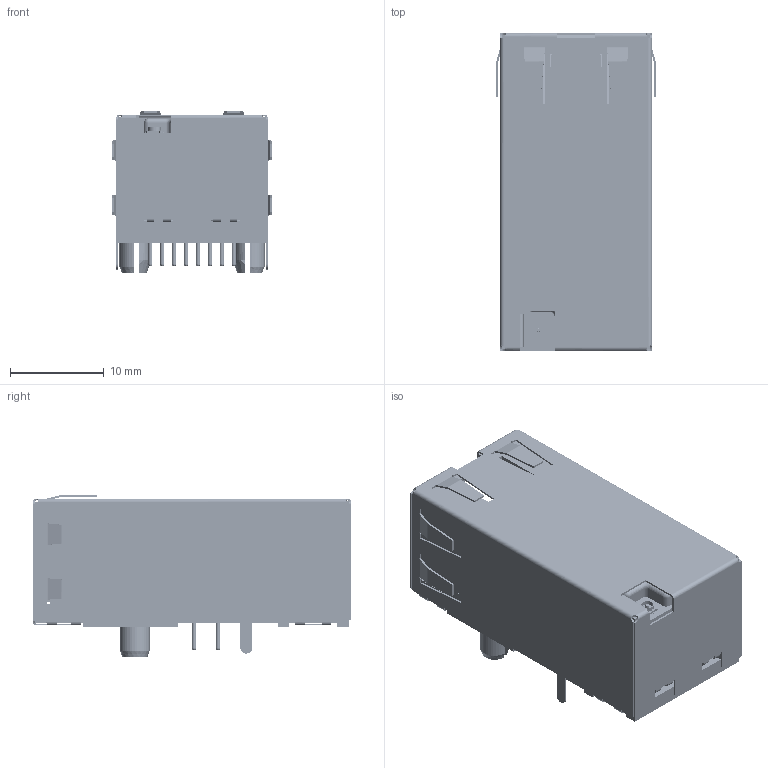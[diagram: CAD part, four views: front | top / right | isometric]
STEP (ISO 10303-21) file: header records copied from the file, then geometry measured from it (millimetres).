
FILE_DESCRIPTION(/* description */ ('','CAx-IF Rec.Pracs.---Representation and Presentation of Product Manufacturing Information (PMI)---4.0---2014-10-13'),/* implementation_level */ '2;1');
FILE_NAME(/* name */ 'RTConnectModule_v3.step',/* time_stamp */ '2025-02-19T11:11:50-06:00',/* author */ (''),/* organization */ (''),/* preprocessor_version */ 'ST-DEVELOPER v20',/* originating_system */ 'Autodesk Translation Framework v13.20.0.188',/* authorisation */ '');
FILE_SCHEMA (('AP242_MANAGED_MODEL_BASED_3D_ENGINEERING_MIM_LF { 1 0 10303 442 1 1 4 }'));
Products named in the file (130): RTCMOD-model; RTCMOD-R-0_1 v40; Board; Packages; ALT4532-171; alt4532m-171 v3; ALT4532-171 (1); alt4532m-171 v3 (1); ALT4532M-171 DRRAub
N(typ size); ALT4532M-171 [qubN
(typ size); C0402; C0402 (1); C0402 (2); C0402 (3); C0402 (4); C0402 (5); C0402 v1; C0805; C0805 v1; R0402; R0402 (1); R0402 (2); R0402 (3); R0402 (4); R0402 (5); R0402 (6); R0402 (7); R0402 (8); R0402 (9); R0402 (10); R0402 v1; IND_MCZ1210AH_TDK; IND_MCZ1210AH_TDK_1; MCZ1210AH_TDK v3; SOT-23-5L_SEM; SOT-23-5L_SEM v1; RC01835; RJ45-low-profile-core v3; HEADER-9-0.5; MTMS-109-51-G-S-125 v1 ...
Assembly tree (202 placements, depth 6):
  RTCMOD-model
    RTCMOD-R-0_1 v40
      Board
      Packages
        ALT4532-171
          alt4532m-171 v3
            ALT4532M-171 DRRAub
N(typ size)
            ALT4532M-171 [qubN
(typ size)  x6
        ALT4532-171 (1)
          alt4532m-171 v3 (1)
            ALT4532M-171 DRRAub
N(typ size)
            ALT4532M-171 [qubN
(typ size)  x6
        C0402
          C0402 v1
        C0402 (1)
          C0402 v1
        C0402 (2)
          C0402 v1
        C0402 (3)
          C0402 v1
        C0402 (4)
          C0402 v1
        C0402 (5)
          C0402 v1
        C0805
          C0805 v1
        R0402
          R0402 v1
        R0402 (1)
          R0402 v1
        R0402 (2)
          R0402 v1
        R0402 (3)
          R0402 v1
        R0402 (4)
          R0402 v1
        R0402 (5)
          R0402 v1
        R0402 (6)
          R0402 v1
        R0402 (7)
          R0402 v1
        R0402 (8)
          R0402 v1
        R0402 (9)
          R0402 v1
        R0402 (10)
          R0402 v1
        IND_MCZ1210AH_TDK
          MCZ1210AH_TDK v3
        IND_MCZ1210AH_TDK_1
          MCZ1210AH_TDK v3
        SOT-23-5L_SEM
          SOT-23-5L_SEM v1
        RC01835
          RJ45-low-profile-core v3
        HEADER-9-0.5
          MTMS-109-51-G-S-125 v1
            _MTMS-109-S_terminal
            _T-1M6-09-51-S-125__
Bounding box: 16.95 x 33.86 x 17.3 mm (x, y, z)
Volume: 3887.6 mm3; surface area: 18739.8 mm2
Topology: 1258 solids, 1258 shells, 21942 faces, 51840 edges, 32266 vertices
Faces by surface type: plane 16913, cylinder 3326, bspline 965, sphere 690, torus 28, cone 20
Full cylindrical faces by diameter (mm): 0.042 x1, 0.057 x230, 0.065 x2, 0.082 x39, 0.088 x1, 0.127 x154, 0.15 x1, 0.152 x26, 0.201 x1, 0.22 x1, 0.25 x1, 0.4 x1, 0.46 x16, 0.5 x8, 0.508 x18, 0.53 x63, 0.58 x378, 0.6 x18, 0.63 x56, 0.65 x108, 0.7 x16, 0.83 x28, 0.9 x8, 1 x16, 1.016 x2, 1.219 x1, 1.359 x1, 1.399 x2, 1.55 x8, 1.905 x9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
Entity records: 536586 total; most frequent: CARTESIAN_POINT 104913, ORIENTED_EDGE 88226, DIRECTION 82388, EDGE_CURVE 44113, LINE 37670, VECTOR 37670, VERTEX_POINT 27904, AXIS2_PLACEMENT_3D 22359
